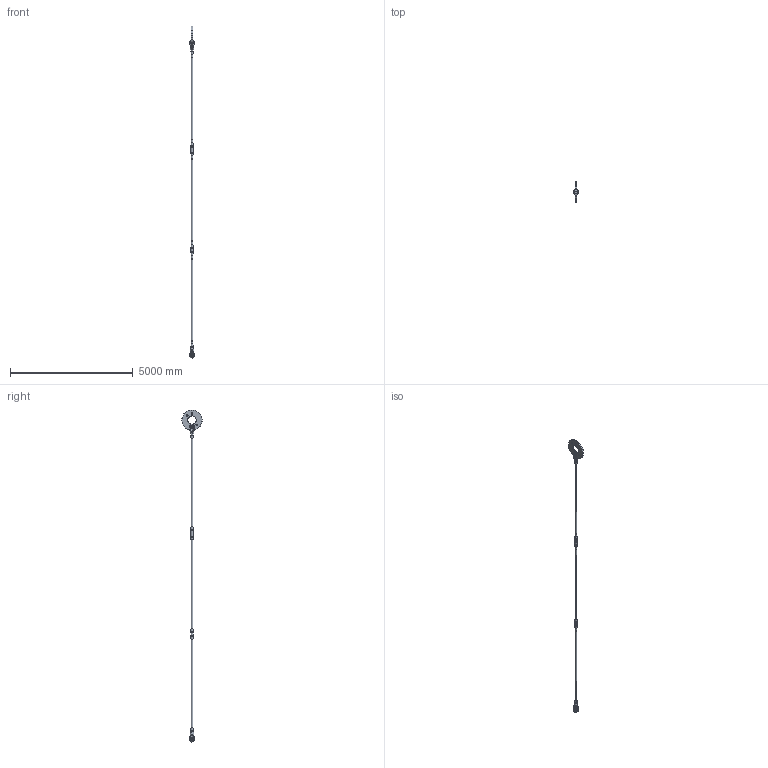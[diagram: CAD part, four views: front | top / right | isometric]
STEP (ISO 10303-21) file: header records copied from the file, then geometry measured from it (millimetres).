
FILE_DESCRIPTION(/* description */ (''),/* implementation_level */ '2;1');
FILE_NAME(/* name */ 'C:\Vault-WS\Anker\Werksnorm\Hochbau\ASDO-System\ASDO-S\System Komplett\Step\M 068.stp',/* time_stamp */ '2014-01-30T09:22:40+01:00',/* author */ ('ritgen'),/* organization */ (''),/* preprocessor_version */ 'ST-DEVELOPER v15.2',/* originating_system */ 'Autodesk Inventor 2014',/* authorisation */ '');
FILE_SCHEMA (('AUTOMOTIVE_DESIGN { 1 0 10303 214 3 1 1 }'));
Length unit declared in the file: millimetre
Products named in the file (11): ASDO-005765; ASDO-014270; ASDO-014324; DIN 7991 - M10x25 - 8.8; ASDO-013939; ASDO-001699; ASDO-001342; ASDO-001458; ASDO-006341; ASDO-014028; ASDO-006340
Bounding box: 171 x 824.21 x 13537.81 mm (x, y, z)
Volume: 82178991.6 mm3; surface area: 5248362 mm2
Topology: 24 solids, 24 shells, 503 faces, 1072 edges, 654 vertices
Faces by surface type: plane 172, bspline 144, cylinder 85, cone 54, torus 48
Full cylindrical faces by diameter (mm): 8.376 x4, 9 x18, 10 x4, 12 x4, 20 x4, 61.505 x11, 68 x5, 70 x10, 71 x1, 72 x6, 92 x4, 98.5 x6, 108 x2, 340 x1, 825 x1
Entity records: 13946 total; most frequent: CARTESIAN_POINT 9594, DIRECTION 786, ORIENTED_EDGE 782, EDGE_CURVE 391, AXIS2_PLACEMENT_3D 361, EDGE_LOOP 322, VERTEX_POINT 273, ADVANCED_FACE 217
